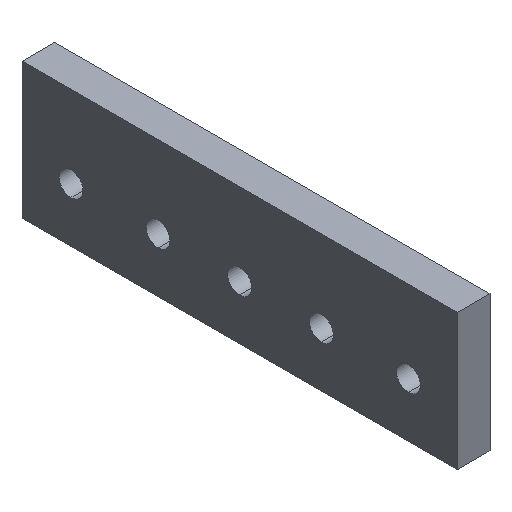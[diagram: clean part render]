
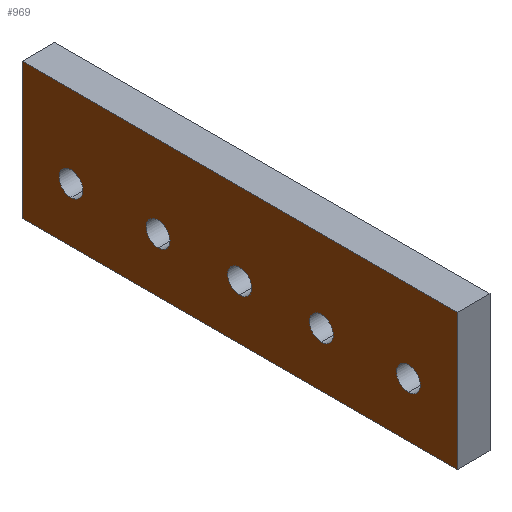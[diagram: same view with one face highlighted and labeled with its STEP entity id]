
A CAD part, isometric view. The second image highlights one B-rep face of the part: STEP entity #969.
In plain terms, the highlighted planar face has unit normal (-1, 0, 0).
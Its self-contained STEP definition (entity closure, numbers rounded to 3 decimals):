
#511=CARTESIAN_POINT('Vertex',(0.,400.,0.)) ;
#518=CARTESIAN_POINT('Vertex',(0.,0.,0.)) ;
#521=CARTESIAN_POINT('Line Origine',(0.,200.,0.)) ;
#538=CARTESIAN_POINT('Line Origine',(0.,400.,62.5)) ;
#542=CARTESIAN_POINT('Vertex',(0.,400.,125.)) ;
#562=CARTESIAN_POINT('Line Origine',(0.,200.,125.)) ;
#566=CARTESIAN_POINT('Vertex',(0.,0.,125.)) ;
#586=CARTESIAN_POINT('Line Origine',(0.,0.,62.5)) ;
#607=CARTESIAN_POINT('Vertex',(0.,355.,61.)) ;
#610=CARTESIAN_POINT('Axis2P3D Location',(0.,355.,50.)) ;
#614=CARTESIAN_POINT('Vertex',(0.,366.,50.)) ;
#617=CARTESIAN_POINT('Axis2P3D Location',(0.,355.,50.)) ;
#621=CARTESIAN_POINT('Vertex',(0.,355.,39.)) ;
#643=CARTESIAN_POINT('Axis2P3D Location',(0.,355.,50.)) ;
#647=CARTESIAN_POINT('Vertex',(0.,344.,50.)) ;
#650=CARTESIAN_POINT('Axis2P3D Location',(0.,355.,50.)) ;
#673=CARTESIAN_POINT('Vertex',(0.,275.,61.)) ;
#676=CARTESIAN_POINT('Axis2P3D Location',(0.,275.,50.)) ;
#680=CARTESIAN_POINT('Vertex',(0.,286.,50.)) ;
#683=CARTESIAN_POINT('Axis2P3D Location',(0.,275.,50.)) ;
#687=CARTESIAN_POINT('Vertex',(0.,275.,39.)) ;
#709=CARTESIAN_POINT('Axis2P3D Location',(0.,275.,50.)) ;
#713=CARTESIAN_POINT('Vertex',(0.,264.,50.)) ;
#716=CARTESIAN_POINT('Axis2P3D Location',(0.,275.,50.)) ;
#739=CARTESIAN_POINT('Vertex',(0.,200.,61.)) ;
#742=CARTESIAN_POINT('Axis2P3D Location',(0.,200.,50.)) ;
#746=CARTESIAN_POINT('Vertex',(0.,211.,50.)) ;
#749=CARTESIAN_POINT('Axis2P3D Location',(0.,200.,50.)) ;
#753=CARTESIAN_POINT('Vertex',(0.,200.,39.)) ;
#775=CARTESIAN_POINT('Axis2P3D Location',(0.,200.,50.)) ;
#779=CARTESIAN_POINT('Vertex',(0.,189.,50.)) ;
#782=CARTESIAN_POINT('Axis2P3D Location',(0.,200.,50.)) ;
#805=CARTESIAN_POINT('Vertex',(0.,125.,61.)) ;
#808=CARTESIAN_POINT('Axis2P3D Location',(0.,125.,50.)) ;
#812=CARTESIAN_POINT('Vertex',(0.,136.,50.)) ;
#815=CARTESIAN_POINT('Axis2P3D Location',(0.,125.,50.)) ;
#819=CARTESIAN_POINT('Vertex',(0.,125.,39.)) ;
#841=CARTESIAN_POINT('Axis2P3D Location',(0.,125.,50.)) ;
#845=CARTESIAN_POINT('Vertex',(0.,114.,50.)) ;
#848=CARTESIAN_POINT('Axis2P3D Location',(0.,125.,50.)) ;
#871=CARTESIAN_POINT('Vertex',(0.,45.,61.)) ;
#874=CARTESIAN_POINT('Axis2P3D Location',(0.,45.,50.)) ;
#878=CARTESIAN_POINT('Vertex',(0.,56.,50.)) ;
#881=CARTESIAN_POINT('Axis2P3D Location',(0.,45.,50.)) ;
#885=CARTESIAN_POINT('Vertex',(0.,45.,39.)) ;
#907=CARTESIAN_POINT('Axis2P3D Location',(0.,45.,50.)) ;
#911=CARTESIAN_POINT('Vertex',(0.,34.,50.)) ;
#914=CARTESIAN_POINT('Axis2P3D Location',(0.,45.,50.)) ;
#928=CARTESIAN_POINT('Axis2P3D Location',(0.,400.,125.)) ;
#522=DIRECTION('Vector Direction',(0.,-1.,0.)) ;
#539=DIRECTION('Vector Direction',(0.,0.,-1.)) ;
#563=DIRECTION('Vector Direction',(0.,-1.,0.)) ;
#587=DIRECTION('Vector Direction',(0.,0.,-1.)) ;
#611=DIRECTION('Axis2P3D Direction',(-1.,-0.,0.)) ;
#618=DIRECTION('Axis2P3D Direction',(-1.,-0.,0.)) ;
#644=DIRECTION('Axis2P3D Direction',(-1.,-0.,-0.)) ;
#651=DIRECTION('Axis2P3D Direction',(-1.,-0.,-0.)) ;
#677=DIRECTION('Axis2P3D Direction',(-1.,-0.,0.)) ;
#684=DIRECTION('Axis2P3D Direction',(-1.,-0.,0.)) ;
#710=DIRECTION('Axis2P3D Direction',(-1.,-0.,-0.)) ;
#717=DIRECTION('Axis2P3D Direction',(-1.,-0.,-0.)) ;
#743=DIRECTION('Axis2P3D Direction',(-1.,-0.,0.)) ;
#750=DIRECTION('Axis2P3D Direction',(-1.,-0.,0.)) ;
#776=DIRECTION('Axis2P3D Direction',(-1.,-0.,-0.)) ;
#783=DIRECTION('Axis2P3D Direction',(-1.,-0.,-0.)) ;
#809=DIRECTION('Axis2P3D Direction',(-1.,-0.,0.)) ;
#816=DIRECTION('Axis2P3D Direction',(-1.,-0.,0.)) ;
#842=DIRECTION('Axis2P3D Direction',(-1.,-0.,-0.)) ;
#849=DIRECTION('Axis2P3D Direction',(-1.,-0.,-0.)) ;
#875=DIRECTION('Axis2P3D Direction',(-1.,-0.,0.)) ;
#882=DIRECTION('Axis2P3D Direction',(-1.,-0.,0.)) ;
#908=DIRECTION('Axis2P3D Direction',(-1.,-0.,-0.)) ;
#915=DIRECTION('Axis2P3D Direction',(-1.,-0.,-0.)) ;
#929=DIRECTION('Axis2P3D Direction',(1.,0.,-0.)) ;
#930=DIRECTION('Axis2P3D XDirection',(-0.,0.,-1.)) ;
#612=AXIS2_PLACEMENT_3D('Circle Axis2P3D',#610,#611,$) ;
#619=AXIS2_PLACEMENT_3D('Circle Axis2P3D',#617,#618,$) ;
#645=AXIS2_PLACEMENT_3D('Circle Axis2P3D',#643,#644,$) ;
#652=AXIS2_PLACEMENT_3D('Circle Axis2P3D',#650,#651,$) ;
#678=AXIS2_PLACEMENT_3D('Circle Axis2P3D',#676,#677,$) ;
#685=AXIS2_PLACEMENT_3D('Circle Axis2P3D',#683,#684,$) ;
#711=AXIS2_PLACEMENT_3D('Circle Axis2P3D',#709,#710,$) ;
#718=AXIS2_PLACEMENT_3D('Circle Axis2P3D',#716,#717,$) ;
#744=AXIS2_PLACEMENT_3D('Circle Axis2P3D',#742,#743,$) ;
#751=AXIS2_PLACEMENT_3D('Circle Axis2P3D',#749,#750,$) ;
#777=AXIS2_PLACEMENT_3D('Circle Axis2P3D',#775,#776,$) ;
#784=AXIS2_PLACEMENT_3D('Circle Axis2P3D',#782,#783,$) ;
#810=AXIS2_PLACEMENT_3D('Circle Axis2P3D',#808,#809,$) ;
#817=AXIS2_PLACEMENT_3D('Circle Axis2P3D',#815,#816,$) ;
#843=AXIS2_PLACEMENT_3D('Circle Axis2P3D',#841,#842,$) ;
#850=AXIS2_PLACEMENT_3D('Circle Axis2P3D',#848,#849,$) ;
#876=AXIS2_PLACEMENT_3D('Circle Axis2P3D',#874,#875,$) ;
#883=AXIS2_PLACEMENT_3D('Circle Axis2P3D',#881,#882,$) ;
#909=AXIS2_PLACEMENT_3D('Circle Axis2P3D',#907,#908,$) ;
#916=AXIS2_PLACEMENT_3D('Circle Axis2P3D',#914,#915,$) ;
#931=AXIS2_PLACEMENT_3D('Plane Axis2P3D',#928,#929,#930) ;
#934=ORIENTED_EDGE('',*,*,#525,.T.) ;
#935=ORIENTED_EDGE('',*,*,#590,.F.) ;
#936=ORIENTED_EDGE('',*,*,#568,.F.) ;
#937=ORIENTED_EDGE('',*,*,#544,.T.) ;
#940=ORIENTED_EDGE('',*,*,#616,.T.) ;
#941=ORIENTED_EDGE('',*,*,#654,.T.) ;
#942=ORIENTED_EDGE('',*,*,#649,.T.) ;
#943=ORIENTED_EDGE('',*,*,#623,.T.) ;
#946=ORIENTED_EDGE('',*,*,#682,.T.) ;
#947=ORIENTED_EDGE('',*,*,#720,.T.) ;
#948=ORIENTED_EDGE('',*,*,#715,.T.) ;
#949=ORIENTED_EDGE('',*,*,#689,.T.) ;
#952=ORIENTED_EDGE('',*,*,#748,.T.) ;
#953=ORIENTED_EDGE('',*,*,#786,.T.) ;
#954=ORIENTED_EDGE('',*,*,#781,.T.) ;
#955=ORIENTED_EDGE('',*,*,#755,.T.) ;
#958=ORIENTED_EDGE('',*,*,#814,.T.) ;
#959=ORIENTED_EDGE('',*,*,#852,.T.) ;
#960=ORIENTED_EDGE('',*,*,#847,.T.) ;
#961=ORIENTED_EDGE('',*,*,#821,.T.) ;
#964=ORIENTED_EDGE('',*,*,#880,.T.) ;
#965=ORIENTED_EDGE('',*,*,#918,.T.) ;
#966=ORIENTED_EDGE('',*,*,#913,.T.) ;
#967=ORIENTED_EDGE('',*,*,#887,.T.) ;
#944=FACE_BOUND('',#939,.T.) ;
#950=FACE_BOUND('',#945,.T.) ;
#956=FACE_BOUND('',#951,.T.) ;
#962=FACE_BOUND('',#957,.T.) ;
#968=FACE_BOUND('',#963,.T.) ;
#523=VECTOR('Line Direction',#522,1.) ;
#540=VECTOR('Line Direction',#539,1.) ;
#564=VECTOR('Line Direction',#563,1.) ;
#588=VECTOR('Line Direction',#587,1.) ;
#969=ADVANCED_FACE('A612-125-400',(#938,#944,#950,#956,#962,#968),#932,.F.) ;
#613=CIRCLE('generated circle',#612,11.) ;
#620=CIRCLE('generated circle',#619,11.) ;
#646=CIRCLE('generated circle',#645,11.) ;
#653=CIRCLE('generated circle',#652,11.) ;
#679=CIRCLE('generated circle',#678,11.) ;
#686=CIRCLE('generated circle',#685,11.) ;
#712=CIRCLE('generated circle',#711,11.) ;
#719=CIRCLE('generated circle',#718,11.) ;
#745=CIRCLE('generated circle',#744,11.) ;
#752=CIRCLE('generated circle',#751,11.) ;
#778=CIRCLE('generated circle',#777,11.) ;
#785=CIRCLE('generated circle',#784,11.) ;
#811=CIRCLE('generated circle',#810,11.) ;
#818=CIRCLE('generated circle',#817,11.) ;
#844=CIRCLE('generated circle',#843,11.) ;
#851=CIRCLE('generated circle',#850,11.) ;
#877=CIRCLE('generated circle',#876,11.) ;
#884=CIRCLE('generated circle',#883,11.) ;
#910=CIRCLE('generated circle',#909,11.) ;
#917=CIRCLE('generated circle',#916,11.) ;
#525=EDGE_CURVE('',#512,#519,#524,.T.) ;
#544=EDGE_CURVE('',#543,#512,#541,.T.) ;
#568=EDGE_CURVE('',#543,#567,#565,.T.) ;
#590=EDGE_CURVE('',#567,#519,#589,.T.) ;
#616=EDGE_CURVE('',#615,#608,#613,.F.) ;
#623=EDGE_CURVE('',#622,#615,#620,.F.) ;
#649=EDGE_CURVE('',#648,#622,#646,.F.) ;
#654=EDGE_CURVE('',#608,#648,#653,.F.) ;
#682=EDGE_CURVE('',#681,#674,#679,.F.) ;
#689=EDGE_CURVE('',#688,#681,#686,.F.) ;
#715=EDGE_CURVE('',#714,#688,#712,.F.) ;
#720=EDGE_CURVE('',#674,#714,#719,.F.) ;
#748=EDGE_CURVE('',#747,#740,#745,.F.) ;
#755=EDGE_CURVE('',#754,#747,#752,.F.) ;
#781=EDGE_CURVE('',#780,#754,#778,.F.) ;
#786=EDGE_CURVE('',#740,#780,#785,.F.) ;
#814=EDGE_CURVE('',#813,#806,#811,.F.) ;
#821=EDGE_CURVE('',#820,#813,#818,.F.) ;
#847=EDGE_CURVE('',#846,#820,#844,.F.) ;
#852=EDGE_CURVE('',#806,#846,#851,.F.) ;
#880=EDGE_CURVE('',#879,#872,#877,.F.) ;
#887=EDGE_CURVE('',#886,#879,#884,.F.) ;
#913=EDGE_CURVE('',#912,#886,#910,.F.) ;
#918=EDGE_CURVE('',#872,#912,#917,.F.) ;
#933=EDGE_LOOP('',(#934,#935,#936,#937)) ;
#939=EDGE_LOOP('',(#940,#941,#942,#943)) ;
#945=EDGE_LOOP('',(#946,#947,#948,#949)) ;
#951=EDGE_LOOP('',(#952,#953,#954,#955)) ;
#957=EDGE_LOOP('',(#958,#959,#960,#961)) ;
#963=EDGE_LOOP('',(#964,#965,#966,#967)) ;
#938=FACE_OUTER_BOUND('',#933,.T.) ;
#524=LINE('Line',#521,#523) ;
#541=LINE('Line',#538,#540) ;
#565=LINE('Line',#562,#564) ;
#589=LINE('Line',#586,#588) ;
#932=PLANE('Plane',#931) ;
#512=VERTEX_POINT('',#511) ;
#519=VERTEX_POINT('',#518) ;
#543=VERTEX_POINT('',#542) ;
#567=VERTEX_POINT('',#566) ;
#608=VERTEX_POINT('',#607) ;
#615=VERTEX_POINT('',#614) ;
#622=VERTEX_POINT('',#621) ;
#648=VERTEX_POINT('',#647) ;
#674=VERTEX_POINT('',#673) ;
#681=VERTEX_POINT('',#680) ;
#688=VERTEX_POINT('',#687) ;
#714=VERTEX_POINT('',#713) ;
#740=VERTEX_POINT('',#739) ;
#747=VERTEX_POINT('',#746) ;
#754=VERTEX_POINT('',#753) ;
#780=VERTEX_POINT('',#779) ;
#806=VERTEX_POINT('',#805) ;
#813=VERTEX_POINT('',#812) ;
#820=VERTEX_POINT('',#819) ;
#846=VERTEX_POINT('',#845) ;
#872=VERTEX_POINT('',#871) ;
#879=VERTEX_POINT('',#878) ;
#886=VERTEX_POINT('',#885) ;
#912=VERTEX_POINT('',#911) ;
